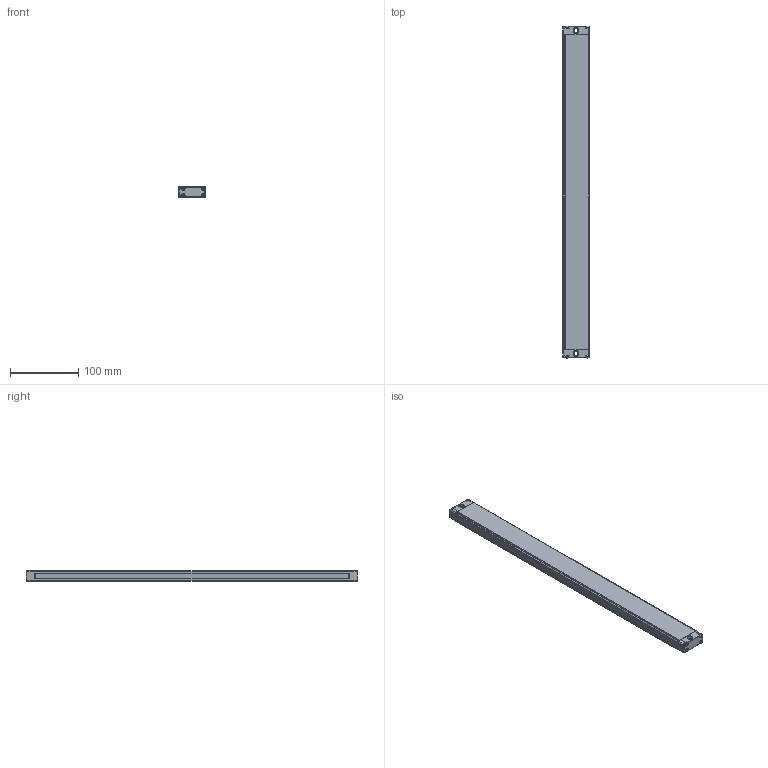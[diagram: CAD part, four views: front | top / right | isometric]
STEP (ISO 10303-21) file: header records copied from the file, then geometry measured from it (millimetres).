
FILE_DESCRIPTION((''),'2;1');
FILE_NAME('EB15--3610_ASM','2021-07-22T11:16:38',('18720616900'),(''),'CREO PARAMETRIC BY PTC INC, 2019010','CREO PARAMETRIC BY PTC INC, 2019010','');
FILE_SCHEMA(('CONFIG_CONTROL_DESIGN'));
Length unit declared in the file: millimetre
Products named in the file (6): EB15-00; EB15-000; EB15-0003; EB15-0004; ST-3-12; EB15--3610_ASM
Assembly tree (12 placements, depth 2):
  EB15--3610_ASM
    EB15-00
    EB15-000
    EB15-0003
    EB15-0004
    ST-3-12  x8
Bounding box: 39.15 x 485 x 15.8 mm (x, y, z)
Volume: 291082 mm3; surface area: 73657.1 mm2
Topology: 12 solids, 12 shells, 827 faces, 2188 edges, 1368 vertices
Faces by surface type: plane 242, bspline 188, cone 176, cylinder 165, torus 40, sphere 16
Entity records: 16044 total; most frequent: CARTESIAN_POINT 7660, ORIENTED_EDGE 1804, DIRECTION 1603, EDGE_CURVE 902, AXIS2_PLACEMENT_3D 577, VERTEX_POINT 563, VECTOR 449, LINE 449
